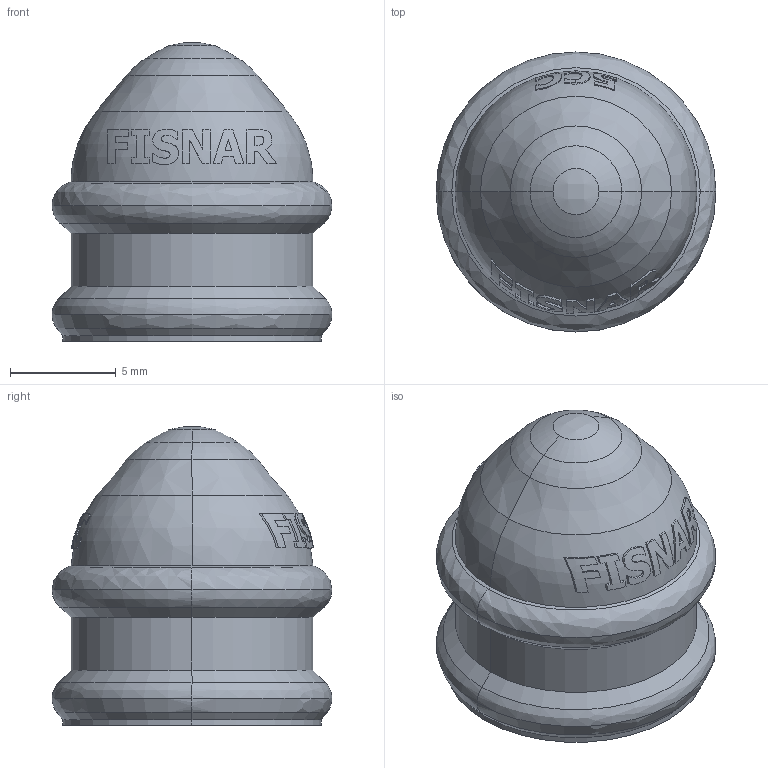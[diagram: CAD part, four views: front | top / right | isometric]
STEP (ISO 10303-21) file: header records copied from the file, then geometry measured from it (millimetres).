
FILE_DESCRIPTION (( 'STEP AP214' ), '1' );
FILE_NAME ('8001511_CUS.STEP', '2022-07-05T14:57:01', ( '' ), ( '' ), 'SwSTEP 2.0', 'SolidWorks 2020', '' );
FILE_SCHEMA (( 'AUTOMOTIVE_DESIGN' ));
Length unit declared in the file: millimetre
Products named in the file (1): 8001511_CUS
Bounding box: 13.22 x 13.22 x 14.1 mm (x, y, z)
Volume: 747.9 mm3; surface area: 959.2 mm2
Topology: 10 solids, 10 shells, 176 faces, 426 edges, 272 vertices
Faces by surface type: plane 73, bspline 50, torus 31, cone 14, cylinder 8
Entity records: 6999 total; most frequent: CARTESIAN_POINT 3013, ORIENTED_EDGE 852, DIRECTION 648, EDGE_CURVE 426, VERTEX_POINT 272, AXIS2_PLACEMENT_3D 259, EDGE_LOOP 182, FACE_OUTER_BOUND 176
